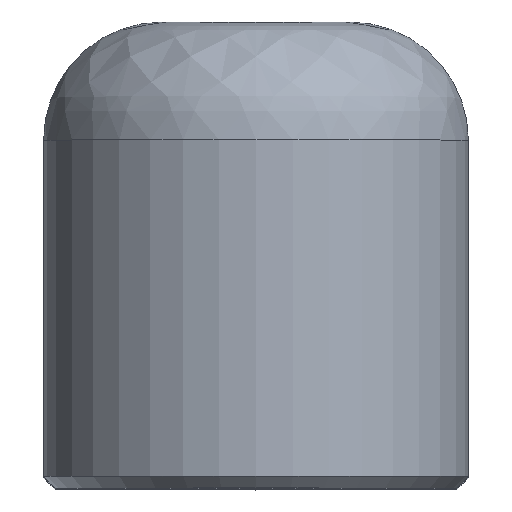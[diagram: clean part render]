
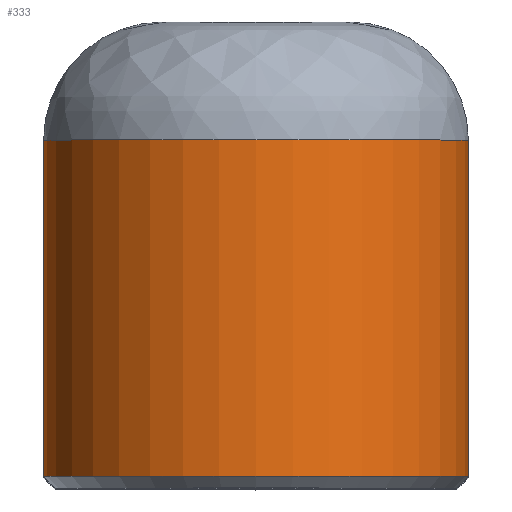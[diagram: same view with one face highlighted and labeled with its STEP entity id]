
A CAD part, top view. The second image highlights one B-rep face of the part: STEP entity #333.
In plain terms, the highlighted cylindrical face has radius 9 mm (diameter 18 mm), a partial arc.
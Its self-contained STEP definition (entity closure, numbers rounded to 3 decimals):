
#48=FACE_OUTER_BOUND('',#70,.T.);
#70=EDGE_LOOP('',(#246,#247,#248,#249));
#94=LINE('',#586,#118);
#95=LINE('',#589,#119);
#118=VECTOR('',#443,10.);
#119=VECTOR('',#446,10.);
#142=CIRCLE('',#372,9.);
#146=CIRCLE('',#378,9.);
#158=VERTEX_POINT('',#536);
#160=VERTEX_POINT('',#556);
#164=VERTEX_POINT('',#585);
#165=VERTEX_POINT('',#587);
#190=EDGE_CURVE('',#158,#160,#142,.T.);
#196=EDGE_CURVE('',#164,#158,#94,.T.);
#197=EDGE_CURVE('',#165,#164,#146,.T.);
#198=EDGE_CURVE('',#165,#160,#95,.T.);
#246=ORIENTED_EDGE('',*,*,#190,.F.);
#247=ORIENTED_EDGE('',*,*,#196,.F.);
#248=ORIENTED_EDGE('',*,*,#197,.F.);
#249=ORIENTED_EDGE('',*,*,#198,.T.);
#324=CYLINDRICAL_SURFACE('',#377,9.);
#333=ADVANCED_FACE('',(#48),#324,.T.);
#372=AXIS2_PLACEMENT_3D('',#560,#429,#430);
#377=AXIS2_PLACEMENT_3D('',#584,#441,#442);
#378=AXIS2_PLACEMENT_3D('',#588,#444,#445);
#429=DIRECTION('center_axis',(0.,1.,0.));
#430=DIRECTION('ref_axis',(0.,0.,1.));
#441=DIRECTION('center_axis',(0.,1.,0.));
#442=DIRECTION('ref_axis',(-1.,0.,0.));
#443=DIRECTION('',(0.,1.,0.));
#444=DIRECTION('center_axis',(0.,-1.,0.));
#445=DIRECTION('ref_axis',(-1.,0.,0.));
#446=DIRECTION('',(0.,1.,0.));
#536=CARTESIAN_POINT('',(-49.,48.75,-9.));
#556=CARTESIAN_POINT('',(-31.,48.75,-9.));
#560=CARTESIAN_POINT('Origin',(-40.,48.75,-9.));
#584=CARTESIAN_POINT('Origin',(-40.,34.,-9.));
#585=CARTESIAN_POINT('',(-49.,34.5,-9.));
#586=CARTESIAN_POINT('',(-49.,34.,-9.));
#587=CARTESIAN_POINT('',(-31.,34.5,-9.));
#588=CARTESIAN_POINT('Origin',(-40.,34.5,-9.));
#589=CARTESIAN_POINT('',(-31.,34.,-9.));
